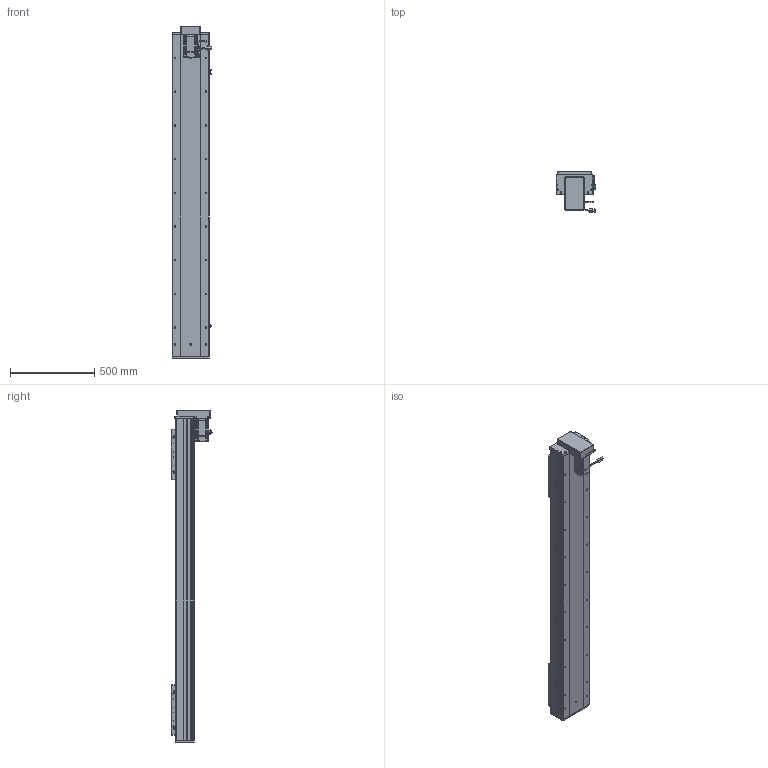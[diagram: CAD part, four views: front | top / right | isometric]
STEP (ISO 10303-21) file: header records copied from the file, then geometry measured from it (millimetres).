
FILE_DESCRIPTION (( 'STEP AP203' ), '1' );
FILE_NAME ('RY220F-L2525-300-BK.SLDASM_1500.step', '2022-07-04T01:21:17', ( '' ), ( '' ), 'SwSTEP 2.0', 'SolidWorks 2016', '' );
FILE_SCHEMA (( 'CONFIG_CONTROL_DESIGN' ));
Length unit declared in the file: millimetre
Products named in the file (15): RY220F-672覜茼んえ; RY220狟殏萇儂假蚾啣; RY220F-L2525-300-BK.SLDASM_1500; 覜茼ん672; 滅袉蝶18-24; RY220F-滅鳥奻裔; 怢湛750W_ECMA-CX0807ES; RY220F-祥凄詩湍-蛌殏-300_1500; RY220狟殏萇儂欶; RY220F-蛌殏奻裔啣-300_1500; RY220F綴裔啣; 侐源滅袉蝶; RY220F蛌殏菁釱-300_1500; RY220F-詩湍揤踡輸; RY220F臏賑釱25-32佪裝
Assembly tree (24 placements, depth 2):
  RY220F-L2525-300-BK.SLDASM_1500
    RY220F蛌殏菁釱-300_1500
    RY220F-蛌殏奻裔啣-300_1500  x2
    怢湛750W_ECMA-CX0807ES
    RY220F臏賑釱25-32佪裝  x2
    RY220F-滅鳥奻裔  x2
    滅袉蝶18-24  x3
    RY220F綴裔啣
    RY220F-祥凄詩湍-蛌殏-300_1500
    RY220F-詩湍揤踡輸  x2
    覜茼ん672  x3
    RY220F-672覜茼んえ  x2
    侐源滅袉蝶  x2
    RY220狟殏萇儂假蚾啣
    RY220狟殏萇儂欶
Bounding box: 237.27 x 247.24 x 1971 mm (x, y, z)
Volume: 17723750 mm3; surface area: 4631809 mm2
Topology: 25 solids, 25 shells, 2831 faces, 7686 edges, 4741 vertices
Faces by surface type: cylinder 1266, plane 1062, cone 432, bspline 45, sphere 16, torus 10
Entity records: 70353 total; most frequent: CARTESIAN_POINT 18935, ORIENTED_EDGE 10378, DIRECTION 10129, EDGE_CURVE 5189, AXIS2_PLACEMENT_3D 3602, VERTEX_POINT 3357, LINE 2925, VECTOR 2925
